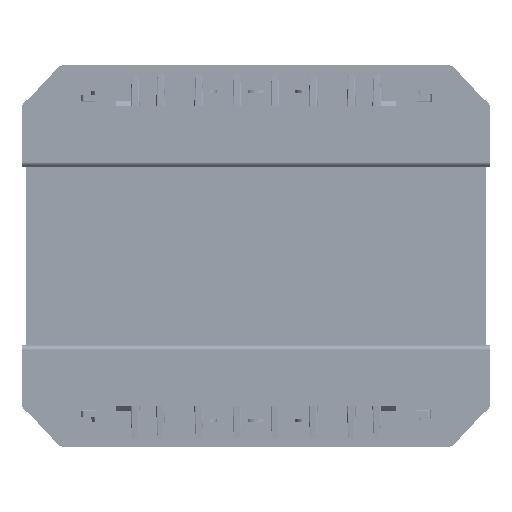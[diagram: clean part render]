
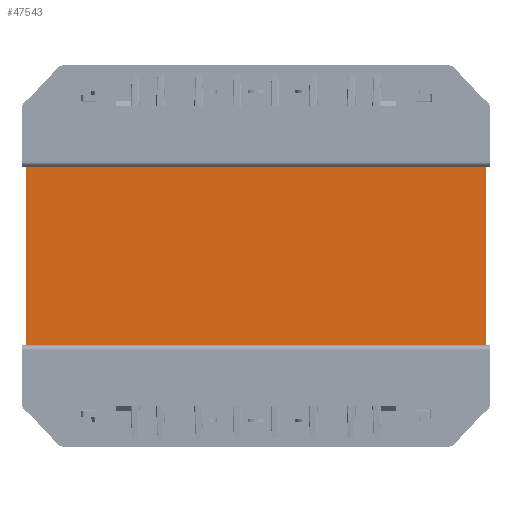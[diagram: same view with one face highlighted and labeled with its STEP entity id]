
A CAD part, front view. The second image highlights one B-rep face of the part: STEP entity #47543.
In plain terms, the highlighted planar face has unit normal (0, -1, 0).
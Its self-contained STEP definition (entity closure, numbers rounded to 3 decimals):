
#1107 = EDGE_CURVE ( 'NONE', #27660, #134420, #52012, .T. ) ;
#1687 = DIRECTION ( 'NONE',  ( 0., 1., 0. ) ) ;
#4981 = ORIENTED_EDGE ( 'NONE', *, *, #158759, .T. ) ;
#10643 = EDGE_CURVE ( 'NONE', #119505, #27660, #77050, .T. ) ;
#10681 = VECTOR ( 'NONE', #128907, 1000. ) ;
#18897 = ORIENTED_EDGE ( 'NONE', *, *, #10643, .F. ) ;
#27660 = VERTEX_POINT ( 'NONE', #54565 ) ;
#43592 = VECTOR ( 'NONE', #130131, 1000. ) ;
#46771 = CARTESIAN_POINT ( 'NONE',  ( -90.6, -75.5, 35. ) ) ;
#46812 = CARTESIAN_POINT ( 'NONE',  ( -90.6, -75.5, -35. ) ) ;
#47543 = ADVANCED_FACE ( 'NONE', ( #83009 ), #152486, .F. ) ;
#52012 = LINE ( 'NONE', #53595, #10681 ) ;
#52684 = VECTOR ( 'NONE', #80320, 1000. ) ;
#53595 = CARTESIAN_POINT ( 'NONE',  ( 90.6, -75.5, 35. ) ) ;
#54565 = CARTESIAN_POINT ( 'NONE',  ( 90.6, -75.5, 35. ) ) ;
#56629 = LINE ( 'NONE', #155775, #52684 ) ;
#77050 = LINE ( 'NONE', #80107, #43592 ) ;
#80107 = CARTESIAN_POINT ( 'NONE',  ( -90.6, -75.5, 35. ) ) ;
#80320 = DIRECTION ( 'NONE',  ( 0., 0., -1. ) ) ;
#83009 = FACE_OUTER_BOUND ( 'NONE', #122854, .T. ) ;
#84811 = AXIS2_PLACEMENT_3D ( 'NONE', #101734, #1687, #89649 ) ;
#89649 = DIRECTION ( 'NONE',  ( 0., 0., 1. ) ) ;
#92733 = VERTEX_POINT ( 'NONE', #46812 ) ;
#101734 = CARTESIAN_POINT ( 'NONE',  ( -90.6, -75.5, 35. ) ) ;
#102067 = ORIENTED_EDGE ( 'NONE', *, *, #105068, .T. ) ;
#105068 = EDGE_CURVE ( 'NONE', #92733, #134420, #157007, .T. ) ;
#107820 = ORIENTED_EDGE ( 'NONE', *, *, #1107, .F. ) ;
#113486 = DIRECTION ( 'NONE',  ( 1., 0., 0. ) ) ;
#119505 = VERTEX_POINT ( 'NONE', #46771 ) ;
#122854 = EDGE_LOOP ( 'NONE', ( #102067, #107820, #18897, #4981 ) ) ;
#123437 = VECTOR ( 'NONE', #113486, 1000. ) ;
#128907 = DIRECTION ( 'NONE',  ( 0., 0., -1. ) ) ;
#130131 = DIRECTION ( 'NONE',  ( 1., 0., 0. ) ) ;
#134420 = VERTEX_POINT ( 'NONE', #154216 ) ;
#151014 = CARTESIAN_POINT ( 'NONE',  ( -90.6, -75.5, -35. ) ) ;
#152486 = PLANE ( 'NONE',  #84811 ) ;
#154216 = CARTESIAN_POINT ( 'NONE',  ( 90.6, -75.5, -35. ) ) ;
#155775 = CARTESIAN_POINT ( 'NONE',  ( -90.6, -75.5, 35. ) ) ;
#157007 = LINE ( 'NONE', #151014, #123437 ) ;
#158759 = EDGE_CURVE ( 'NONE', #119505, #92733, #56629, .T. ) ;
